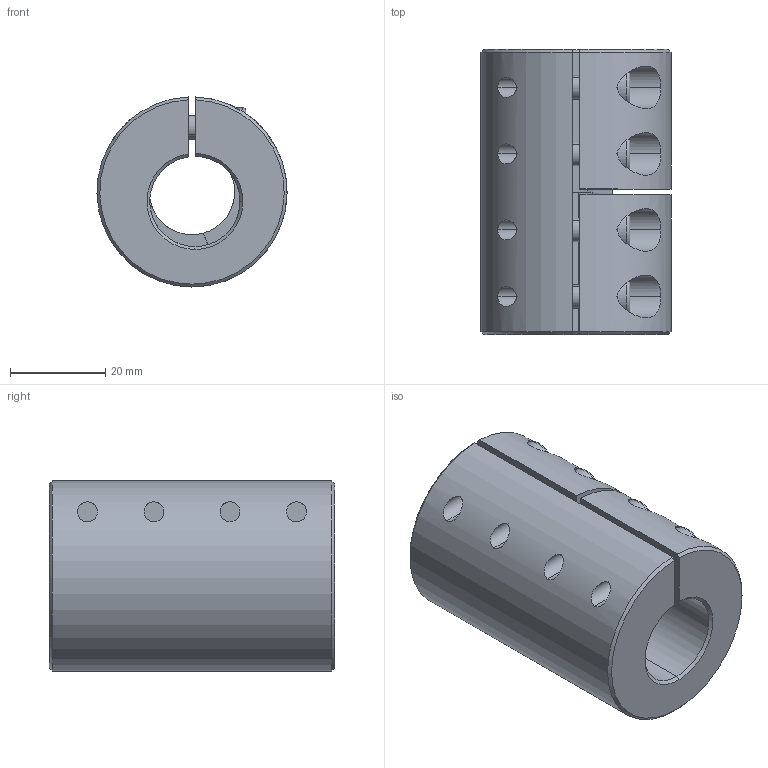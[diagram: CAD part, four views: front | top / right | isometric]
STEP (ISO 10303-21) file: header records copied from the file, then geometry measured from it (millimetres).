
FILE_DESCRIPTION (( 'STEP AP214' ), '1' );
FILE_NAME ('LL-B-D40L60-18-19½¨Ä£.STEP', '2022-07-22T01:04:16', ( '' ), ( '' ), 'SwSTEP 2.0', 'SolidWorks 2022', '' );
FILE_SCHEMA (( 'AUTOMOTIVE_DESIGN' ));
Length unit declared in the file: millimetre
Products named in the file (1): LL-B-D40L60-18-19膘耀
Bounding box: 40 x 60 x 39.99 mm (x, y, z)
Volume: 56201.6 mm3; surface area: 17545.5 mm2
Topology: 1 solids, 1 shells, 177 faces, 446 edges, 279 vertices
Faces by surface type: plane 85, cylinder 70, cone 14, torus 8
Entity records: 5827 total; most frequent: CARTESIAN_POINT 1479, DIRECTION 947, ORIENTED_EDGE 876, EDGE_CURVE 438, AXIS2_PLACEMENT_3D 371, VERTEX_POINT 279, EDGE_LOOP 209, LINE 205
